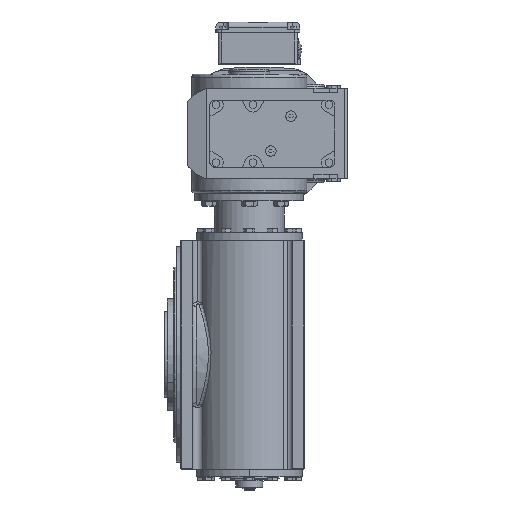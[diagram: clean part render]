
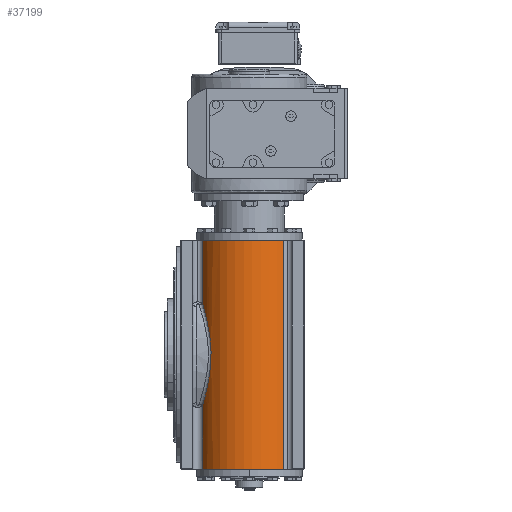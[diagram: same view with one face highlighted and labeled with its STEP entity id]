
A CAD part, left-side view. The second image highlights one B-rep face of the part: STEP entity #37199.
In plain terms, the highlighted cylindrical face has radius 71 mm (diameter 142 mm), a partial arc.
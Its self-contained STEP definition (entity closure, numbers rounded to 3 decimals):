
#513 = VERTEX_POINT ( 'NONE', #60697 ) ;
#3438 = CARTESIAN_POINT ( 'NONE',  ( -143.351, 125.993, 14.878 ) ) ;
#3582 = DIRECTION ( 'NONE',  ( 1., 0., 0. ) ) ;
#3786 = ORIENTED_EDGE ( 'NONE', *, *, #55577, .T. ) ;
#4405 = EDGE_CURVE ( 'NONE', #12214, #61965, #43961, .T. ) ;
#4416 = CARTESIAN_POINT ( 'NONE',  ( -135.977, 131.984, 49.755 ) ) ;
#4743 = LINE ( 'NONE', #51587, #30885 ) ;
#4921 = CARTESIAN_POINT ( 'NONE',  ( -143.967, 125.413, 5.846 ) ) ;
#5681 = CARTESIAN_POINT ( 'NONE',  ( -128.109, 136.808, 500000. ) ) ;
#6858 = CARTESIAN_POINT ( 'NONE',  ( -142.199, 127.041, -24.119 ) ) ;
#8128 = EDGE_CURVE ( 'NONE', #61965, #18554, #28745, .T. ) ;
#10119 = ORIENTED_EDGE ( 'NONE', *, *, #4405, .F. ) ;
#10891 = CARTESIAN_POINT ( 'NONE',  ( -128.109, 136.808, -500000. ) ) ;
#11055 = CARTESIAN_POINT ( 'NONE',  ( -139.32, 129.475, 38.415 ) ) ;
#11910 = ORIENTED_EDGE ( 'NONE', *, *, #8128, .F. ) ;
#12214 = VERTEX_POINT ( 'NONE', #87828 ) ;
#14016 = CARTESIAN_POINT ( 'NONE',  ( -138.584, 130.076, -41.542 ) ) ;
#14962 = AXIS2_PLACEMENT_3D ( 'NONE', #83705, #91844, #61877 ) ;
#15013 = CARTESIAN_POINT ( 'NONE',  ( -132.999, 134.023, -58.167 ) ) ;
#17767 = VECTOR ( 'NONE', #82984, 1000. ) ;
#18554 = VERTEX_POINT ( 'NONE', #42383 ) ;
#19191 = CARTESIAN_POINT ( 'NONE',  ( -144.049, 125.334, 2.839 ) ) ;
#26324 = CARTESIAN_POINT ( 'NONE',  ( -136.889, 131.329, 46.942 ) ) ;
#27816 = CARTESIAN_POINT ( 'NONE',  ( -133.018, 134.012, 58.125 ) ) ;
#28745 = CIRCLE ( 'NONE', #93697, 71. ) ;
#30885 = VECTOR ( 'NONE', #43971, 1000. ) ;
#33214 = DIRECTION ( 'NONE',  ( 1., 0., 0. ) ) ;
#35130 = DIRECTION ( 'NONE',  ( 0., 0., 1. ) ) ;
#35472 = CARTESIAN_POINT ( 'NONE',  ( -137.325, 131.008, 45.529 ) ) ;
#36993 = ORIENTED_EDGE ( 'NONE', *, *, #56944, .T. ) ;
#37199 = ADVANCED_FACE ( 'NONE', ( #88015 ), #96132, .T. ) ;
#37448 = CARTESIAN_POINT ( 'NONE',  ( -130.722, 135.43, -63.561 ) ) ;
#37955 = CARTESIAN_POINT ( 'NONE',  ( -136.93, 131.346, -47.157 ) ) ;
#39237 = CARTESIAN_POINT ( 'NONE',  ( -128.109, 136.808, 154. ) ) ;
#39550 = ORIENTED_EDGE ( 'NONE', *, *, #100094, .T. ) ;
#41691 = B_SPLINE_CURVE_WITH_KNOTS ( 'NONE', 3,
 ( #80708, #74107, #27816, #95983, #4416, #26324, #35472, #82202, #11055, #42138, #73109, #66457, #3438, #51257, #43633, #4921, #19191, #50236, #65993, #92292, #92804, #6858, #53188, #84151, #61840, #14016, #37955, #15013, #37448, #99951 ),
 .UNSPECIFIED., .F., .F.,
 ( 4, 2, 2, 2, 2, 2, 2, 2, 2, 2, 2, 2, 2, 2, 4 ),
 ( 0., 0.018, 0.023, 0.027, 0.036, 0.055, 0.059, 0.064, 0.073, 0.091, 0.095, 0.1, 0.109, 0.127, 0.145 ),
 .UNSPECIFIED. ) ;
#41731 = VECTOR ( 'NONE', #81040, 1000. ) ;
#42138 = CARTESIAN_POINT ( 'NONE',  ( -141.327, 127.831, 29.758 ) ) ;
#42383 = CARTESIAN_POINT ( 'NONE',  ( -148.721, 27.577, 154. ) ) ;
#43633 = CARTESIAN_POINT ( 'NONE',  ( -143.713, 125.653, 10.36 ) ) ;
#43961 = LINE ( 'NONE', #10891, #41731 ) ;
#43971 = DIRECTION ( 'NONE',  ( 0., 0., 1. ) ) ;
#45509 = DIRECTION ( 'NONE',  ( 0., 0., 1. ) ) ;
#48026 = VERTEX_POINT ( 'NONE', #69990 ) ;
#50236 = CARTESIAN_POINT ( 'NONE',  ( -144.04, 125.343, -6.17 ) ) ;
#51257 = CARTESIAN_POINT ( 'NONE',  ( -143.607, 125.753, 11.865 ) ) ;
#51587 = CARTESIAN_POINT ( 'NONE',  ( -148.721, 27.577, -154. ) ) ;
#53188 = CARTESIAN_POINT ( 'NONE',  ( -141.962, 127.251, -25.6 ) ) ;
#55577 = EDGE_CURVE ( 'NONE', #87915, #513, #83203, .T. ) ;
#56054 = ORIENTED_EDGE ( 'NONE', *, *, #66382, .T. ) ;
#56944 = EDGE_CURVE ( 'NONE', #12214, #48026, #41691, .T. ) ;
#57914 = EDGE_LOOP ( 'NONE', ( #10119, #36993, #39550, #3786, #56054, #11910 ) ) ;
#60697 = CARTESIAN_POINT ( 'NONE',  ( -148.721, 27.577, -154. ) ) ;
#61138 = LINE ( 'NONE', #5681, #17767 ) ;
#61840 = CARTESIAN_POINT ( 'NONE',  ( -140.598, 128.429, -32.922 ) ) ;
#61877 = DIRECTION ( 'NONE',  ( 1., 0., 0. ) ) ;
#61965 = VERTEX_POINT ( 'NONE', #39237 ) ;
#65993 = CARTESIAN_POINT ( 'NONE',  ( -143.692, 125.681, -12.164 ) ) ;
#66186 = AXIS2_PLACEMENT_3D ( 'NONE', #81861, #35130, #3582 ) ;
#66382 = EDGE_CURVE ( 'NONE', #513, #18554, #4743, .T. ) ;
#66457 = CARTESIAN_POINT ( 'NONE',  ( -143.2, 126.132, 16.387 ) ) ;
#69990 = CARTESIAN_POINT ( 'NONE',  ( -128.109, 136.808, -68.859 ) ) ;
#73109 = CARTESIAN_POINT ( 'NONE',  ( -142.345, 126.918, 23.884 ) ) ;
#74106 = CARTESIAN_POINT ( 'NONE',  ( -128.109, 136.808, -154. ) ) ;
#74107 = CARTESIAN_POINT ( 'NONE',  ( -130.725, 135.429, 63.555 ) ) ;
#80708 = CARTESIAN_POINT ( 'NONE',  ( -128.109, 136.808, 68.859 ) ) ;
#81040 = DIRECTION ( 'NONE',  ( 0., 0., 1. ) ) ;
#81861 = CARTESIAN_POINT ( 'NONE',  ( -95., 74., -154. ) ) ;
#82202 = CARTESIAN_POINT ( 'NONE',  ( -138.57, 130.069, 41.275 ) ) ;
#82984 = DIRECTION ( 'NONE',  ( 0., 0., -1. ) ) ;
#83203 = CIRCLE ( 'NONE', #14962, 71. ) ;
#83705 = CARTESIAN_POINT ( 'NONE',  ( -95., 74., -154. ) ) ;
#84151 = CARTESIAN_POINT ( 'NONE',  ( -141.192, 127.924, -30.015 ) ) ;
#87828 = CARTESIAN_POINT ( 'NONE',  ( -128.109, 136.808, 68.859 ) ) ;
#87915 = VERTEX_POINT ( 'NONE', #74106 ) ;
#88015 = FACE_OUTER_BOUND ( 'NONE', #57914, .T. ) ;
#91844 = DIRECTION ( 'NONE',  ( 0., 0., 1. ) ) ;
#92292 = CARTESIAN_POINT ( 'NONE',  ( -142.826, 126.476, -19.641 ) ) ;
#92804 = CARTESIAN_POINT ( 'NONE',  ( -142.631, 126.653, -21.138 ) ) ;
#93237 = CARTESIAN_POINT ( 'NONE',  ( -95., 74., 154. ) ) ;
#93697 = AXIS2_PLACEMENT_3D ( 'NONE', #93237, #45509, #33214 ) ;
#95983 = CARTESIAN_POINT ( 'NONE',  ( -135.5, 132.319, 51.157 ) ) ;
#96132 = CYLINDRICAL_SURFACE ( 'NONE', #66186, 71. ) ;
#99951 = CARTESIAN_POINT ( 'NONE',  ( -128.109, 136.808, -68.859 ) ) ;
#100094 = EDGE_CURVE ( 'NONE', #48026, #87915, #61138, .T. ) ;
